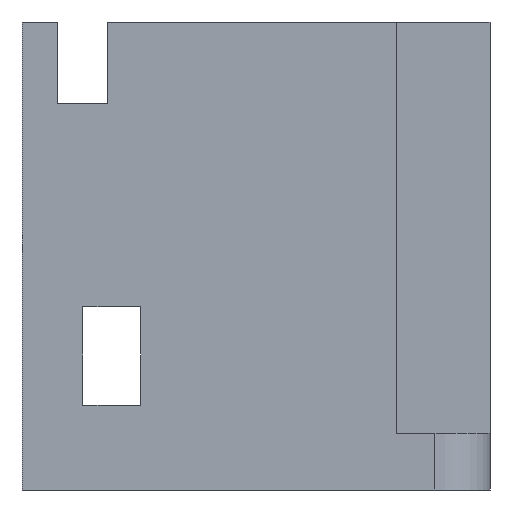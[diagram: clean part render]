
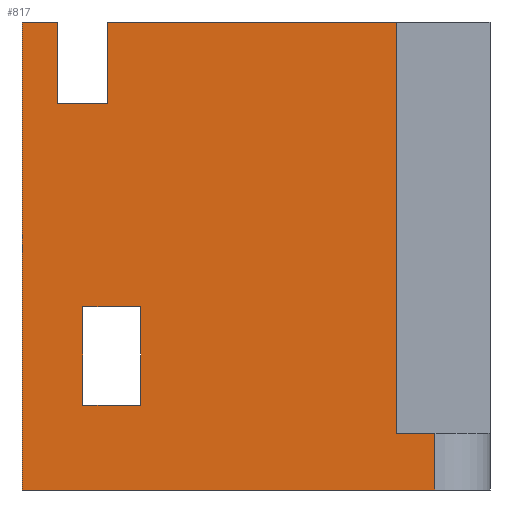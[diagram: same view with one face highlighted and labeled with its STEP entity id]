
A CAD part, front view. The second image highlights one B-rep face of the part: STEP entity #817.
In plain terms, the highlighted planar face has unit normal (0, -1, 0).
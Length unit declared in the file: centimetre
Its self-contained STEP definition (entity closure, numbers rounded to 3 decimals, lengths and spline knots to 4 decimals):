
#2 = CARTESIAN_POINT ( 'NONE',  ( 0., 0., 1000. ) ) ;
#59 = ORIENTED_EDGE ( 'NONE', *, *, #464, .T. ) ;
#72 = CARTESIAN_POINT ( 'NONE',  ( 800.3617, 0., 121.1605 ) ) ;
#73 = VERTEX_POINT ( 'NONE', #262 ) ;
#81 = ORIENTED_EDGE ( 'NONE', *, *, #457, .T. ) ;
#96 = EDGE_LOOP ( 'NONE', ( #212, #448, #1412, #59, #1046, #81, #915, #580, #1141, #1361 ) ) ;
#104 = VERTEX_POINT ( 'NONE', #492 ) ;
#136 = DIRECTION ( 'NONE',  ( 0., 0., 1. ) ) ;
#145 = LINE ( 'NONE', #665, #304 ) ;
#185 = DIRECTION ( 'NONE',  ( 1., 0., 0. ) ) ;
#198 = LINE ( 'NONE', #302, #886 ) ;
#212 = ORIENTED_EDGE ( 'NONE', *, *, #305, .F. ) ;
#248 = CARTESIAN_POINT ( 'NONE',  ( 882.3624, 0., 121.1605 ) ) ;
#260 = EDGE_CURVE ( 'NONE', #877, #410, #660, .T. ) ;
#262 = CARTESIAN_POINT ( 'NONE',  ( 75.1596, 0., 1000. ) ) ;
#274 = VERTEX_POINT ( 'NONE', #788 ) ;
#302 = CARTESIAN_POINT ( 'NONE',  ( 75.1596, 0., 825.5672 ) ) ;
#304 = VECTOR ( 'NONE', #383, 100. ) ;
#305 = EDGE_CURVE ( 'NONE', #339, #434, #667, .T. ) ;
#307 = CARTESIAN_POINT ( 'NONE',  ( 800.3617, 0., 121.1605 ) ) ;
#339 = VERTEX_POINT ( 'NONE', #796 ) ;
#356 = LINE ( 'NONE', #468, #728 ) ;
#361 = CARTESIAN_POINT ( 'NONE',  ( 129.9823, 0., 392.0255 ) ) ;
#366 = LINE ( 'NONE', #846, #487 ) ;
#374 = VECTOR ( 'NONE', #443, 100. ) ;
#383 = DIRECTION ( 'NONE',  ( 0., 0., -1. ) ) ;
#387 = CARTESIAN_POINT ( 'NONE',  ( 800.3617, 0., 1000. ) ) ;
#405 = LINE ( 'NONE', #1266, #1354 ) ;
#410 = VERTEX_POINT ( 'NONE', #954 ) ;
#414 = VERTEX_POINT ( 'NONE', #1564 ) ;
#426 = VECTOR ( 'NONE', #1356, 100. ) ;
#434 = VERTEX_POINT ( 'NONE', #248 ) ;
#443 = DIRECTION ( 'NONE',  ( 1., 0., 0. ) ) ;
#447 = PLANE ( 'NONE',  #919 ) ;
#448 = ORIENTED_EDGE ( 'NONE', *, *, #567, .T. ) ;
#457 = EDGE_CURVE ( 'NONE', #274, #73, #1224, .T. ) ;
#458 = DIRECTION ( 'NONE',  ( 0., 0., 1. ) ) ;
#464 = EDGE_CURVE ( 'NONE', #104, #650, #356, .T. ) ;
#468 = CARTESIAN_POINT ( 'NONE',  ( 182.0908, 0., 825.5672 ) ) ;
#473 = DIRECTION ( 'NONE',  ( 0., 0., -1. ) ) ;
#483 = VERTEX_POINT ( 'NONE', #2 ) ;
#487 = VECTOR ( 'NONE', #136, 100. ) ;
#492 = CARTESIAN_POINT ( 'NONE',  ( 182.0908, 0., 1000. ) ) ;
#501 = LINE ( 'NONE', #1451, #1427 ) ;
#524 = EDGE_CURVE ( 'NONE', #483, #877, #145, .T. ) ;
#530 = EDGE_CURVE ( 'NONE', #483, #73, #1248, .T. ) ;
#538 = CARTESIAN_POINT ( 'NONE',  ( 0., 0., 0. ) ) ;
#567 = EDGE_CURVE ( 'NONE', #339, #910, #621, .T. ) ;
#580 = ORIENTED_EDGE ( 'NONE', *, *, #524, .T. ) ;
#598 = DIRECTION ( 'NONE',  ( 0., 0., 1. ) ) ;
#610 = DIRECTION ( 'NONE',  ( 1., 0., 0. ) ) ;
#613 = EDGE_CURVE ( 'NONE', #650, #274, #198, .T. ) ;
#618 = CARTESIAN_POINT ( 'NONE',  ( 253.2331, 0., 180.5619 ) ) ;
#621 = LINE ( 'NONE', #72, #426 ) ;
#650 = VERTEX_POINT ( 'NONE', #1285 ) ;
#651 = CARTESIAN_POINT ( 'NONE',  ( 882.3624, 0., 1000. ) ) ;
#660 = LINE ( 'NONE', #538, #374 ) ;
#665 = CARTESIAN_POINT ( 'NONE',  ( 0., 0., 1000. ) ) ;
#667 = LINE ( 'NONE', #307, #748 ) ;
#693 = ORIENTED_EDGE ( 'NONE', *, *, #731, .F. ) ;
#703 = CARTESIAN_POINT ( 'NONE',  ( 75.1596, 0., 825.5672 ) ) ;
#728 = VECTOR ( 'NONE', #963, 100. ) ;
#729 = CARTESIAN_POINT ( 'NONE',  ( 129.9823, 0., 180.5619 ) ) ;
#731 = EDGE_CURVE ( 'NONE', #414, #896, #1077, .T. ) ;
#748 = VECTOR ( 'NONE', #1049, 100. ) ;
#778 = DIRECTION ( 'NONE',  ( 1., 0., 0. ) ) ;
#788 = CARTESIAN_POINT ( 'NONE',  ( 75.1596, 0., 825.5672 ) ) ;
#791 = CARTESIAN_POINT ( 'NONE',  ( 129.9823, 0., 180.5619 ) ) ;
#796 = CARTESIAN_POINT ( 'NONE',  ( 800.3617, 0., 121.1605 ) ) ;
#817 = ADVANCED_FACE ( 'NONE', ( #1180, #1544 ), #447, .F. ) ;
#846 = CARTESIAN_POINT ( 'NONE',  ( 253.2331, 0., 180.5619 ) ) ;
#865 = CARTESIAN_POINT ( 'NONE',  ( 0., 0., 1000. ) ) ;
#877 = VERTEX_POINT ( 'NONE', #998 ) ;
#880 = EDGE_CURVE ( 'NONE', #896, #1110, #501, .T. ) ;
#886 = VECTOR ( 'NONE', #1278, 100. ) ;
#896 = VERTEX_POINT ( 'NONE', #361 ) ;
#910 = VERTEX_POINT ( 'NONE', #387 ) ;
#915 = ORIENTED_EDGE ( 'NONE', *, *, #530, .F. ) ;
#919 = AXIS2_PLACEMENT_3D ( 'NONE', #1428, #943, #458 ) ;
#943 = DIRECTION ( 'NONE',  ( 0., 1., 0. ) ) ;
#954 = CARTESIAN_POINT ( 'NONE',  ( 882.3624, 0., 0. ) ) ;
#960 = VERTEX_POINT ( 'NONE', #618 ) ;
#963 = DIRECTION ( 'NONE',  ( 0., 0., -1. ) ) ;
#989 = EDGE_CURVE ( 'NONE', #410, #434, #1376, .T. ) ;
#998 = CARTESIAN_POINT ( 'NONE',  ( 0., 0., 0. ) ) ;
#1017 = DIRECTION ( 'NONE',  ( 0., 0., 1. ) ) ;
#1044 = LINE ( 'NONE', #729, #1284 ) ;
#1046 = ORIENTED_EDGE ( 'NONE', *, *, #613, .T. ) ;
#1049 = DIRECTION ( 'NONE',  ( 1., 0., 0. ) ) ;
#1069 = VECTOR ( 'NONE', #778, 100. ) ;
#1077 = LINE ( 'NONE', #1443, #1299 ) ;
#1110 = VERTEX_POINT ( 'NONE', #791 ) ;
#1141 = ORIENTED_EDGE ( 'NONE', *, *, #260, .T. ) ;
#1148 = VECTOR ( 'NONE', #598, 100. ) ;
#1180 = FACE_BOUND ( 'NONE', #1187, .T. ) ;
#1187 = EDGE_LOOP ( 'NONE', ( #1220, #1205, #693, #1558 ) ) ;
#1205 = ORIENTED_EDGE ( 'NONE', *, *, #880, .F. ) ;
#1220 = ORIENTED_EDGE ( 'NONE', *, *, #1243, .F. ) ;
#1224 = LINE ( 'NONE', #703, #1148 ) ;
#1243 = EDGE_CURVE ( 'NONE', #1110, #960, #1044, .T. ) ;
#1248 = LINE ( 'NONE', #865, #1069 ) ;
#1266 = CARTESIAN_POINT ( 'NONE',  ( 0., 0., 1000. ) ) ;
#1278 = DIRECTION ( 'NONE',  ( -1., 0., 0. ) ) ;
#1284 = VECTOR ( 'NONE', #610, 100. ) ;
#1285 = CARTESIAN_POINT ( 'NONE',  ( 182.0908, 0., 825.5672 ) ) ;
#1292 = DIRECTION ( 'NONE',  ( -1., 0., 0. ) ) ;
#1299 = VECTOR ( 'NONE', #1292, 100. ) ;
#1351 = EDGE_CURVE ( 'NONE', #960, #414, #366, .T. ) ;
#1354 = VECTOR ( 'NONE', #185, 100. ) ;
#1356 = DIRECTION ( 'NONE',  ( 0., 0., 1. ) ) ;
#1361 = ORIENTED_EDGE ( 'NONE', *, *, #989, .T. ) ;
#1376 = LINE ( 'NONE', #651, #1497 ) ;
#1412 = ORIENTED_EDGE ( 'NONE', *, *, #1498, .F. ) ;
#1427 = VECTOR ( 'NONE', #473, 100. ) ;
#1428 = CARTESIAN_POINT ( 'NONE',  ( 0., 0., 1000. ) ) ;
#1443 = CARTESIAN_POINT ( 'NONE',  ( 129.9823, 0., 392.0255 ) ) ;
#1451 = CARTESIAN_POINT ( 'NONE',  ( 129.9823, 0., 180.5619 ) ) ;
#1497 = VECTOR ( 'NONE', #1017, 100. ) ;
#1498 = EDGE_CURVE ( 'NONE', #104, #910, #405, .T. ) ;
#1544 = FACE_OUTER_BOUND ( 'NONE', #96, .T. ) ;
#1558 = ORIENTED_EDGE ( 'NONE', *, *, #1351, .F. ) ;
#1564 = CARTESIAN_POINT ( 'NONE',  ( 253.2331, 0., 392.0255 ) ) ;
